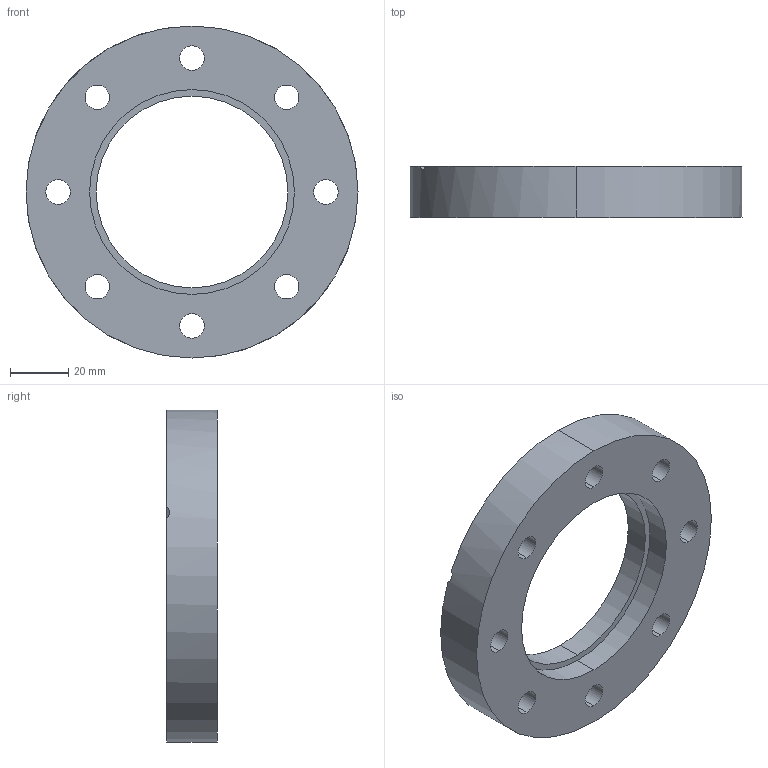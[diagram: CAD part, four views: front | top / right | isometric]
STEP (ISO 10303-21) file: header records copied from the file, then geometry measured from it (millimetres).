
FILE_DESCRIPTION (( 'STEP AP214' ), '1' );
FILE_NAME ('W6CFF63.STEP', '2021-05-14T10:29:25', ( '' ), ( '' ), 'SwSTEP 2.0', 'SolidWorks 2020', '' );
FILE_SCHEMA (( 'AUTOMOTIVE_DESIGN' ));
Length unit declared in the file: millimetre
Products named in the file (1): W6CFF63
Bounding box: 114.3 x 17.5 x 114.3 mm (x, y, z)
Volume: 105740.3 mm3; surface area: 26706.5 mm2
Topology: 1 solids, 1 shells, 41 faces, 104 edges, 66 vertices
Faces by surface type: cylinder 26, torus 6, plane 5, cone 4
Entity records: 1396 total; most frequent: CARTESIAN_POINT 280, DIRECTION 252, ORIENTED_EDGE 208, AXIS2_PLACEMENT_3D 110, EDGE_CURVE 104, CIRCLE 68, VERTEX_POINT 66, EDGE_LOOP 60
